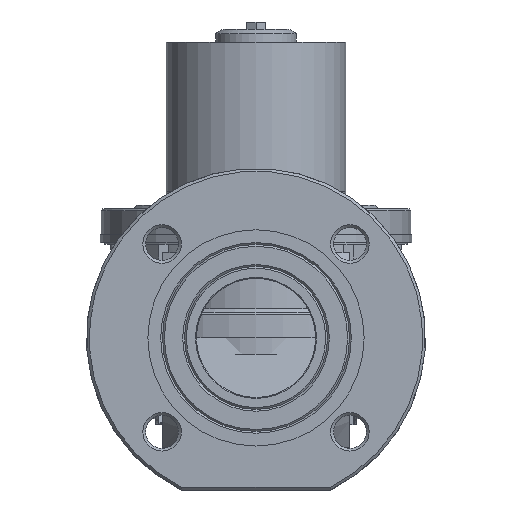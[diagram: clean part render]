
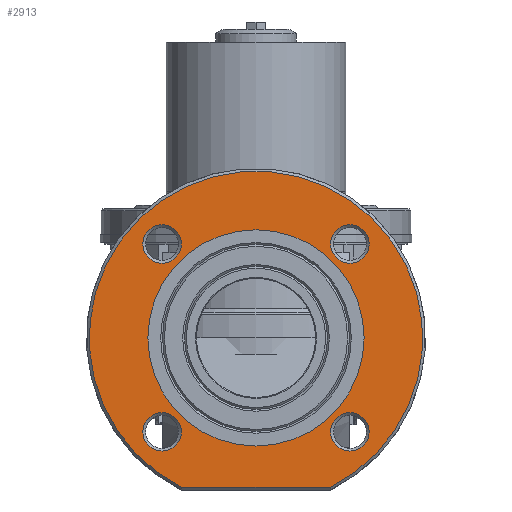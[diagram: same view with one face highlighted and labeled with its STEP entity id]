
A CAD part, front view. The second image highlights one B-rep face of the part: STEP entity #2913.
In plain terms, the highlighted planar face has unit normal (0, -1, 0).
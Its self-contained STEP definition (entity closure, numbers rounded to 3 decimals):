
#2913 = ADVANCED_FACE( '', ( #4382, #4383, #4384, #4385, #4386, #4387 ), #4388, .T. );
#4382 = FACE_BOUND( '', #6625, .T. );
#4383 = FACE_BOUND( '', #6626, .T. );
#4384 = FACE_BOUND( '', #6627, .T. );
#4385 = FACE_BOUND( '', #6628, .T. );
#4386 = FACE_OUTER_BOUND( '', #6629, .T. );
#4387 = FACE_BOUND( '', #6630, .T. );
#4388 = PLANE( '', #6631 );
#6625 = EDGE_LOOP( '', ( #11756 ) );
#6626 = EDGE_LOOP( '', ( #11757 ) );
#6627 = EDGE_LOOP( '', ( #11758 ) );
#6628 = EDGE_LOOP( '', ( #11759 ) );
#6629 = EDGE_LOOP( '', ( #11760, #11761 ) );
#6630 = EDGE_LOOP( '', ( #11762 ) );
#6631 = AXIS2_PLACEMENT_3D( '', #11763, #11764, #11765 );
#11756 = ORIENTED_EDGE( '', *, *, #15307, .T. );
#11757 = ORIENTED_EDGE( '', *, *, #15308, .T. );
#11758 = ORIENTED_EDGE( '', *, *, #15309, .T. );
#11759 = ORIENTED_EDGE( '', *, *, #15310, .T. );
#11760 = ORIENTED_EDGE( '', *, *, #15296, .T. );
#11761 = ORIENTED_EDGE( '', *, *, #15298, .T. );
#11762 = ORIENTED_EDGE( '', *, *, #15311, .F. );
#11763 = CARTESIAN_POINT( '', ( 0., -133., 59. ) );
#11764 = DIRECTION( '', ( 0., -1., 0. ) );
#11765 = DIRECTION( '', ( 0., 0., -1. ) );
#15296 = EDGE_CURVE( '', #17076, #17074, #17077, .T. );
#15298 = EDGE_CURVE( '', #17074, #17076, #17079, .T. );
#15307 = EDGE_CURVE( '', #17096, #17096, #17097, .F. );
#15308 = EDGE_CURVE( '', #17098, #17098, #17099, .F. );
#15309 = EDGE_CURVE( '', #17100, #17100, #17101, .F. );
#15310 = EDGE_CURVE( '', #17102, #17102, #17103, .F. );
#15311 = EDGE_CURVE( '', #17104, #17104, #17105, .T. );
#17074 = VERTEX_POINT( '', #21349 );
#17076 = VERTEX_POINT( '', #21354 );
#17077 = CIRCLE( '', #21355, 91. );
#17079 = LINE( '', #21360, #21361 );
#17096 = VERTEX_POINT( '', #21378 );
#17097 = CIRCLE( '', #21379, 10.5 );
#17098 = VERTEX_POINT( '', #21380 );
#17099 = CIRCLE( '', #21381, 10.5 );
#17100 = VERTEX_POINT( '', #21382 );
#17101 = CIRCLE( '', #21383, 10.5 );
#17102 = VERTEX_POINT( '', #21384 );
#17103 = CIRCLE( '', #21385, 10.5 );
#17104 = VERTEX_POINT( '', #21386 );
#17105 = CIRCLE( '', #21387, 59. );
#21349 = CARTESIAN_POINT( '', ( -40.481, -133., -81.5 ) );
#21354 = CARTESIAN_POINT( '', ( 40.481, -133., -81.5 ) );
#21355 = AXIS2_PLACEMENT_3D( '', #24904, #24905, #24906 );
#21360 = CARTESIAN_POINT( '', ( 0., -133., -81.5 ) );
#21361 = VECTOR( '', #24907, 1000. );
#21378 = CARTESIAN_POINT( '', ( -51.265, -133., -61.765 ) );
#21379 = AXIS2_PLACEMENT_3D( '', #24932, #24933, #24934 );
#21380 = CARTESIAN_POINT( '', ( 51.265, -133., -61.765 ) );
#21381 = AXIS2_PLACEMENT_3D( '', #24935, #24936, #24937 );
#21382 = CARTESIAN_POINT( '', ( 51.265, -133., 40.765 ) );
#21383 = AXIS2_PLACEMENT_3D( '', #24938, #24939, #24940 );
#21384 = CARTESIAN_POINT( '', ( -51.265, -133., 40.765 ) );
#21385 = AXIS2_PLACEMENT_3D( '', #24941, #24942, #24943 );
#21386 = CARTESIAN_POINT( '', ( 0., -133., -59. ) );
#21387 = AXIS2_PLACEMENT_3D( '', #24944, #24945, #24946 );
#24904 = CARTESIAN_POINT( '', ( 0., -133., 0. ) );
#24905 = DIRECTION( '', ( 0., -1., 0. ) );
#24906 = DIRECTION( '', ( 0., 0., -1. ) );
#24907 = DIRECTION( '', ( 1., 0., 0. ) );
#24932 = CARTESIAN_POINT( '', ( -51.265, -133., -51.265 ) );
#24933 = DIRECTION( '', ( 0., -1., 0. ) );
#24934 = DIRECTION( '', ( 0., 0., -1. ) );
#24935 = CARTESIAN_POINT( '', ( 51.265, -133., -51.265 ) );
#24936 = DIRECTION( '', ( 0., -1., 0. ) );
#24937 = DIRECTION( '', ( 0., 0., -1. ) );
#24938 = CARTESIAN_POINT( '', ( 51.265, -133., 51.265 ) );
#24939 = DIRECTION( '', ( 0., -1., 0. ) );
#24940 = DIRECTION( '', ( 0., 0., -1. ) );
#24941 = CARTESIAN_POINT( '', ( -51.265, -133., 51.265 ) );
#24942 = DIRECTION( '', ( 0., -1., 0. ) );
#24943 = DIRECTION( '', ( 0., 0., -1. ) );
#24944 = CARTESIAN_POINT( '', ( 0., -133., 0. ) );
#24945 = DIRECTION( '', ( 0., -1., 0. ) );
#24946 = DIRECTION( '', ( 0., 0., -1. ) );
